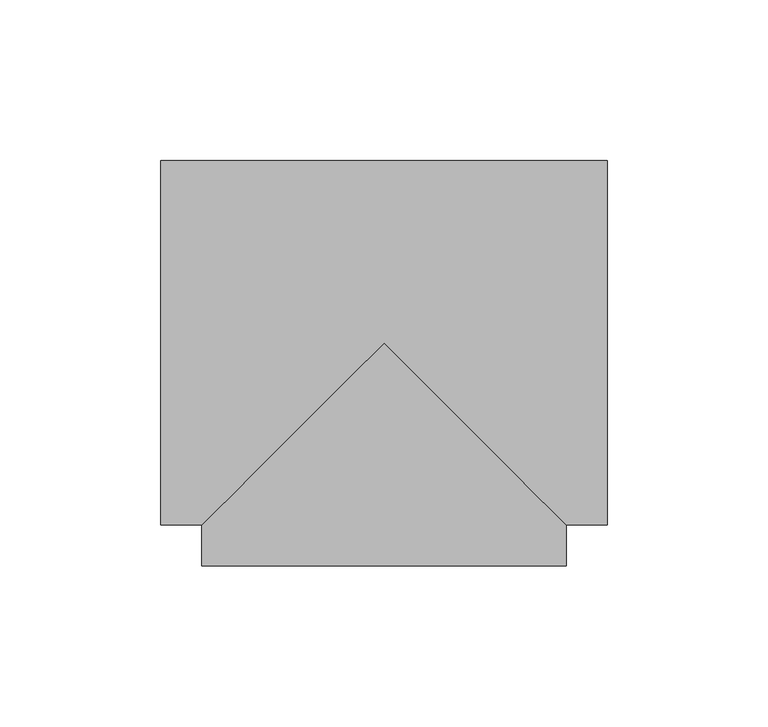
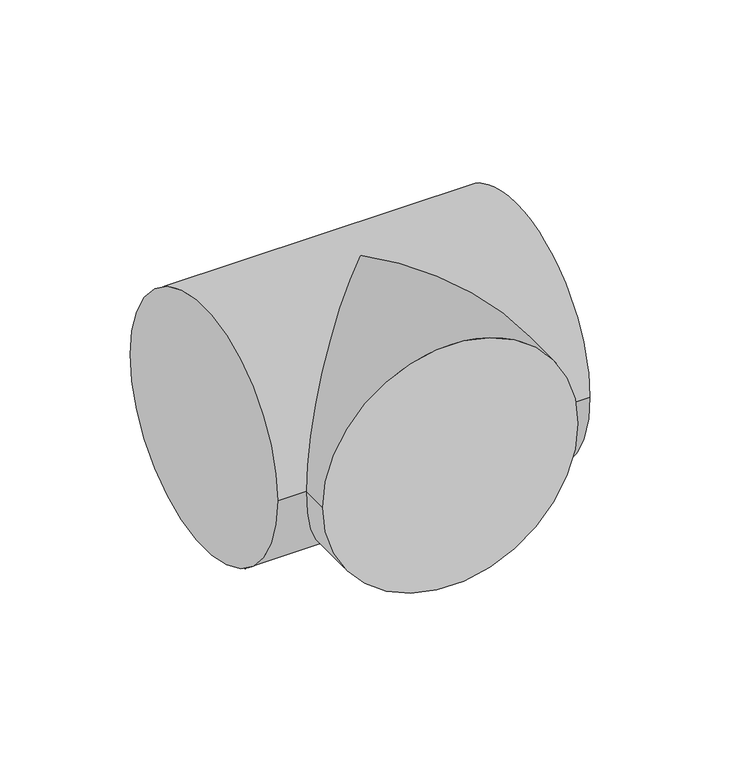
"""IFC4 building model written with IfcOpenShell, lengths in millimetres: pipe fitting geometry, M_Te - Genérica : Estándar."""

from ifc_helpers import new_model, si_unit, frame, origin, place, context, project, spatial, circle_curve, ellipse_curve, source, transform, mapped, element, save
from ifc_brep_helpers import plane_surface, cylinder_surface, advanced_brep


def pipe_fitting_7933befb(model_context):
    return source(origin(), model_context, "Body", "AdvancedBrep", [
        advanced_brep(
        [(-69.2875, -56.5875, 0.0), (-69.2875, 56.5875, 0.0), (69.2875, -56.5875, 0.0), (69.2875, 56.5875, 0.0), (-56.5875, -56.5875, 0.0), (0.0, 0.0, 56.5875), (56.5875, -56.5875, 0.0), (0.0, 0.0, -56.5875), (-56.5875, -69.2875, 0.0), (56.5875, -69.2875, 0.0)],
        [
            (0, 1, circle_curve(frame((-69.2875, 0.0, 0.0), z_axis=(-1.0, 0.0, 0.0), x_axis=(0.0, 1.0, 0.0)), 56.5875)),
            (1, 0, circle_curve(frame((-69.2875, 0.0, 0.0), z_axis=(-1.0, 0.0, 0.0), x_axis=(0.0, 1.0, 0.0)), 56.5875)),
            (2, 3, circle_curve(frame((69.2875, 0.0, 0.0), z_axis=(1.0, 0.0, 0.0), x_axis=(0.0, 1.0, 0.0)), 56.5875)),
            (3, 2, circle_curve(frame((69.2875, 0.0, 0.0), z_axis=(1.0, 0.0, 0.0), x_axis=(0.0, 1.0, 0.0)), 56.5875)),
            (0, 4),
            (4, 5, ellipse_curve(frame((0.0, 0.0, 0.0), z_axis=(-0.707106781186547, 0.7071067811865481, 0.0), x_axis=(-0.707106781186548, -0.707106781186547, 0.0)), 80.02681, 56.5875)),
            (5, 6, ellipse_curve(frame((0.0, 0.0, 0.0), z_axis=(0.707106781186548, 0.7071067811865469, 0.0), x_axis=(-0.707106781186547, 0.707106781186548, 0.0)), 80.02681, 56.5875)),
            (6, 2),
            (3, 1),
            (6, 7, ellipse_curve(frame((0.0, 0.0, 0.0), z_axis=(0.707106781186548, 0.7071067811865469, 0.0), x_axis=(-0.707106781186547, 0.707106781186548, 0.0)), 80.02681, 56.5875)),
            (7, 4, ellipse_curve(frame((0.0, 0.0, 0.0), z_axis=(-0.707106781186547, 0.7071067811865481, 0.0), x_axis=(-0.707106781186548, -0.707106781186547, 0.0)), 80.02681, 56.5875)),
            (8, 9, circle_curve(frame((0.0, -69.2875, 0.0), z_axis=(0.0, -1.0, 0.0), x_axis=(1.0, 0.0, 0.0)), 56.5875)),
            (9, 8, circle_curve(frame((0.0, -69.2875, 0.0), z_axis=(0.0, -1.0, 0.0), x_axis=(1.0, 0.0, 0.0)), 56.5875)),
            (9, 6),
            (4, 8),
        ],
        [
            plane_surface(frame((-69.2875, 0.0, 0.0), z_axis=(-1.0, 0.0, 0.0), x_axis=(0.0, 0.0, 1.0))),
            plane_surface(frame((69.2875, 0.0, 0.0), z_axis=(1.0, 0.0, 0.0), x_axis=(0.0, 0.0, 1.0))),
            cylinder_surface(frame((-69.2875, 0.0, 0.0), z_axis=(-1.0, 0.0, 0.0), x_axis=(0.0, 1.0, 0.0)), 56.5875),
            plane_surface(frame((0.0, -69.2875, 0.0), z_axis=(0.0, -1.0, 0.0), x_axis=(0.0, 0.0, 1.0))),
            cylinder_surface(frame((0.0, 0.0, 0.0), z_axis=(0.0, 1.0, 0.0), x_axis=(1.0, 0.0, 0.0)), 56.5875),
        ],
        [
            (0, [[1, 2]]),
            (1, [[3, 4]]),
            (2, [[-1, 5, 6, 7, 8, -4, 9]]),
            (2, [[-2, -9, -3, -8, 10, 11, -5]]),
            (3, [[12, 13]]),
            (4, [[-13, 14, -7, -6, 15]]),
            (4, [[-12, -15, -11, -10, -14]]),
        ],
    ),
    ])


if __name__ == "__main__":
    model = new_model("IFC4")
    model_context = context("Model", 3, world=origin())
    ifc_project = project(units=[si_unit("LENGTHUNIT", "METRE", prefix="MILLI")], contexts=[model_context])
    site = spatial("IfcSite", under=ifc_project)
    building = spatial("IfcBuilding", under=site)
    placement = place(None, origin())
    pipe_fitting_shape = pipe_fitting_7933befb(model_context)
    element("IfcPipeFitting", 1, ObjectType="M_Te - Genérica : Estándar", at=placement, inside=building, context=model_context, shape_type="MappedRepresentation", body=[
        mapped(pipe_fitting_shape, transform((0.0, 0.0, 0.0), x_axis=(1.0, 0.0, 0.0), y_axis=(0.0, 1.0, 0.0), z_axis=(0.0, 0.0, 1.0))),
    ])
    save(model, "model.ifc")
